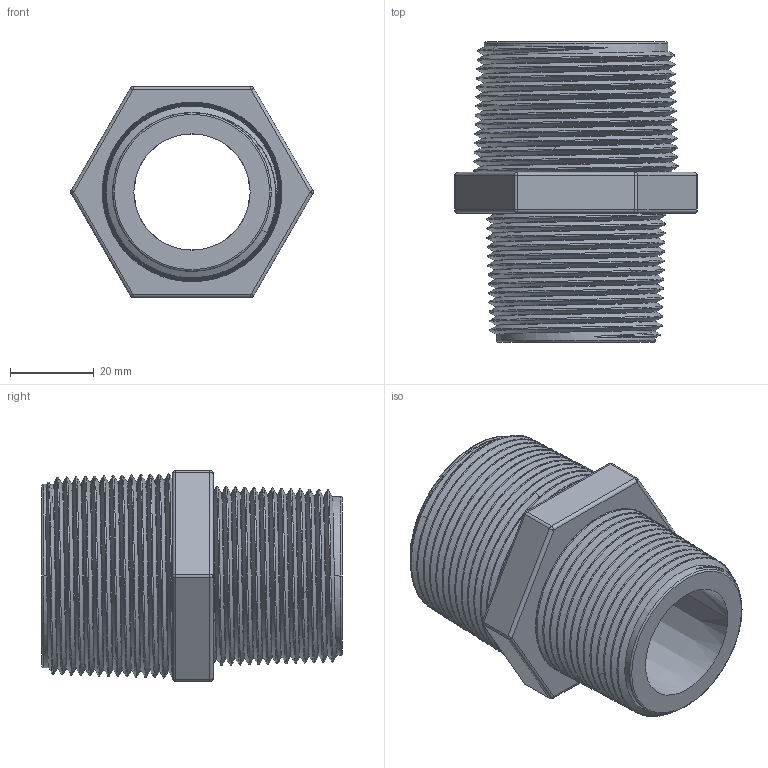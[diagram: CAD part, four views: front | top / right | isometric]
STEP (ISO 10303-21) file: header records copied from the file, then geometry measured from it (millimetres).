
FILE_DESCRIPTION(/* description */ ('Alibre Inc.'),/* implementation_level */ '2;1');
FILE_NAME(/* name */ 'export0',/* time_stamp */ '2019-10-08T11:00:13-04:00',/* author */ (''),/* organization */ (''),/* preprocessor_version */ 'ST-DEVELOPER v17',/* originating_system */ 'Alibre',/* authorisation */ '');
FILE_SCHEMA (('CONFIG_CONTROL_DESIGN'));
Length unit declared in the file: inch
Products named in the file (1): 200-62236-1000C
Bounding box: 57.93 x 71.8 x 50.38 mm (x, y, z)
Volume: 63923.3 mm3; surface area: 25606.9 mm2
Topology: 1 solids, 1 shells, 132 faces, 340 edges, 200 vertices
Faces by surface type: cone 58, bspline 30, cylinder 18, sphere 12, plane 10, torus 4
Entity records: 31878 total; most frequent: CARTESIAN_POINT 29360, ORIENTED_EDGE 656, EDGE_CURVE 328, DIRECTION 285, VERTEX_POINT 200, B_SPLINE_CURVE_WITH_KNOTS 181, EDGE_LOOP 136, FACE_BOUND 136
